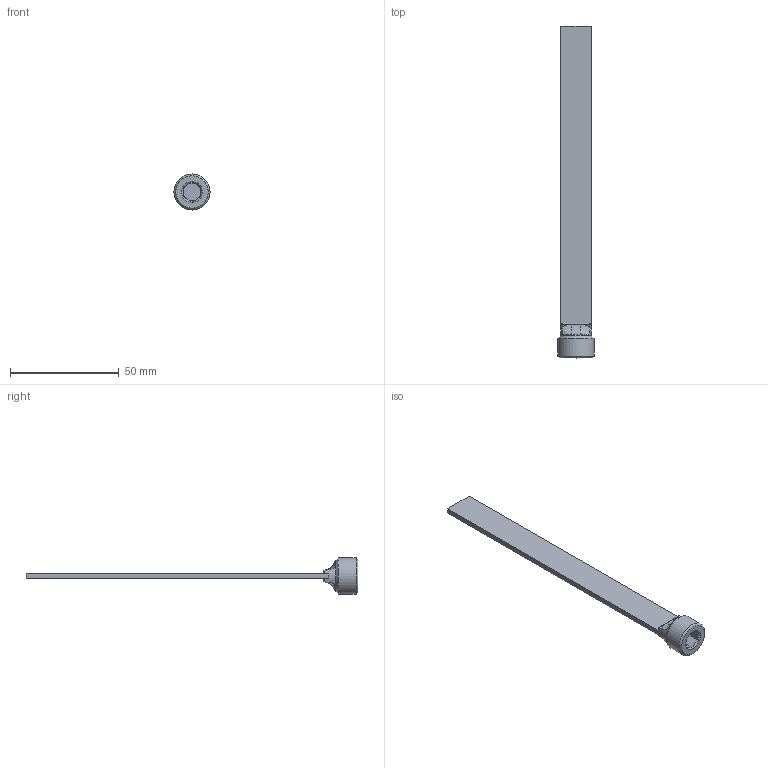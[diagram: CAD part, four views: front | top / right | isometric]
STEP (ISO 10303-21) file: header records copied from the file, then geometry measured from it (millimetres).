
FILE_DESCRIPTION(/* description */ (''),/* implementation_level */ '2;1');
FILE_NAME(/* name */ 'C:/Users/drich/Desktop/SB38X6 v2.step',/* time_stamp */ '2019-12-29T15:59:21-06:00',/* author */ (''),/* organization */ (''),/* preprocessor_version */ 'ST-DEVELOPER v18',/* originating_system */ 'Autodesk Translation Framework v8.12.0.6',/* authorisation */ '');
FILE_SCHEMA (('AUTOMOTIVE_DESIGN { 1 0 10303 214 3 1 1 }'));
Length unit declared in the file: inch
Products named in the file (1): SB38X6
Bounding box: 16.54 x 152.4 x 16.54 mm (x, y, z)
Volume: 6789.8 mm3; surface area: 5788.2 mm2
Topology: 1 solids, 1 shells, 51 faces, 129 edges, 82 vertices
Faces by surface type: plane 24, cylinder 8, torus 8, bspline 8, cone 3
Full cylindrical faces by diameter (mm): 7.874 x1, 16.537 x1
Entity records: 2069 total; most frequent: CARTESIAN_POINT 895, ORIENTED_EDGE 258, DIRECTION 203, EDGE_CURVE 129, VERTEX_POINT 82, AXIS2_PLACEMENT_3D 78, EDGE_LOOP 53, FACE_OUTER_BOUND 51
